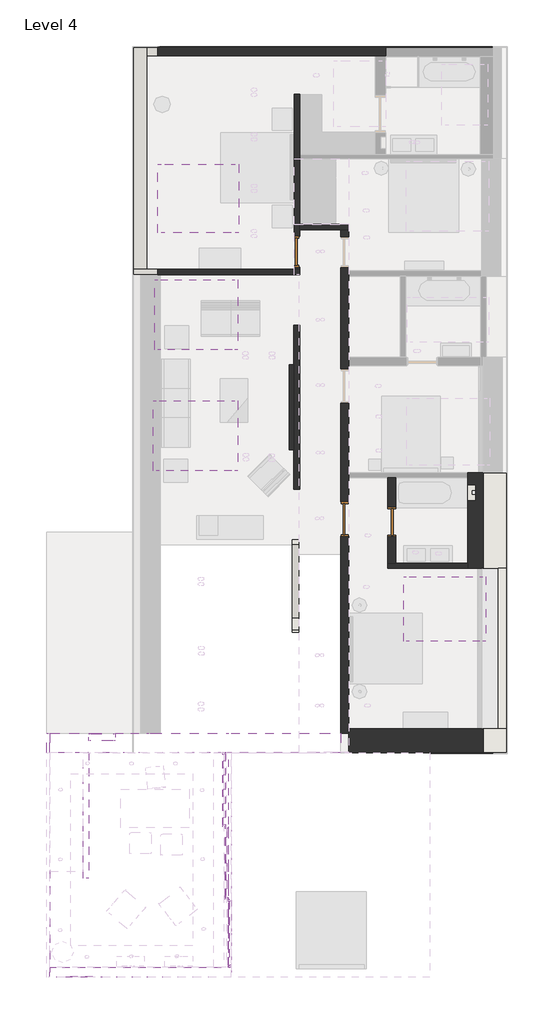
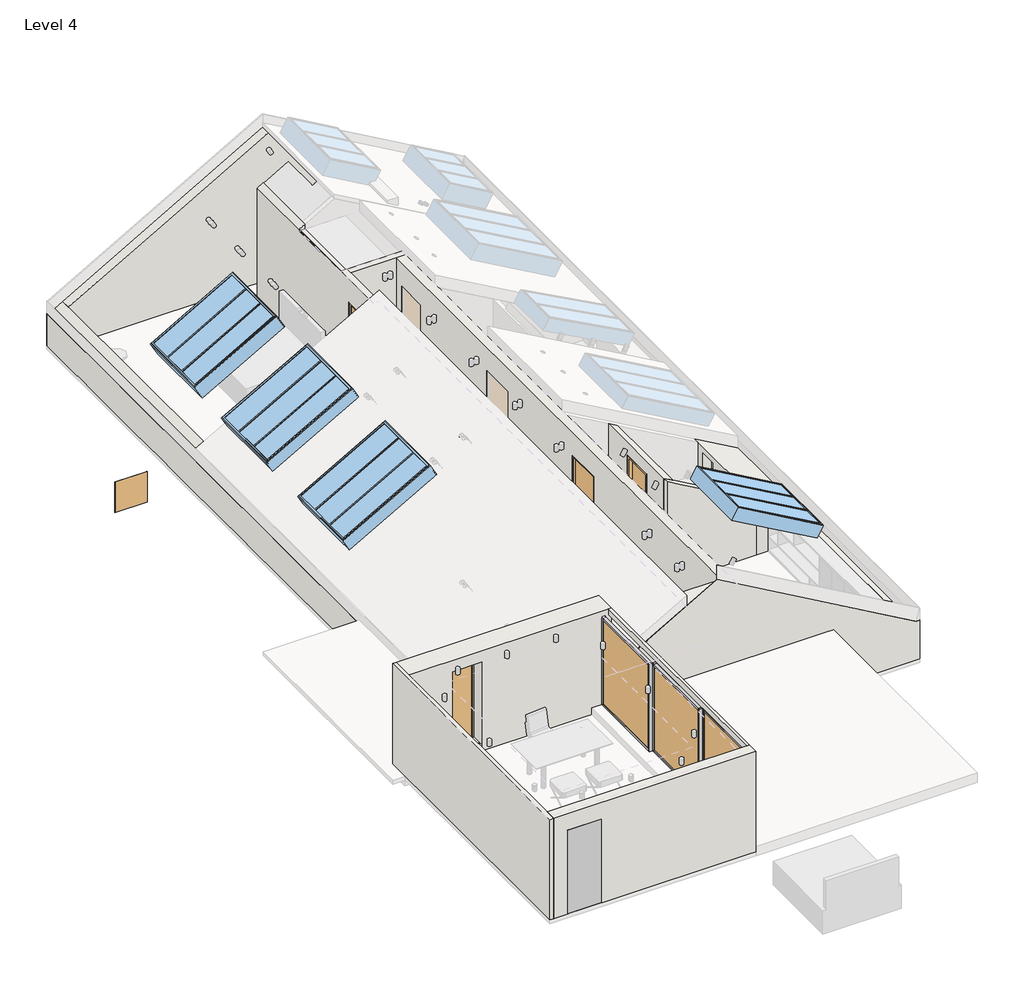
# One storey, part 1 of 5: 23 walls, 16 members, 8 doors, 4 windows, 1 plate.
"""IFC4 building model written with IfcOpenShell, lengths in millimetres."""

from ifc_helpers import new_model, si_unit, frame, origin, place, context, project, spatial, polyline, outline, extrude, faceted_brep, transform, mapped, element, save
from components import door_02_type_2_bd7ec7c0, door_02_type_3_48e4adbd, door_02_type_4_94f705d0, door_04_type_1_ab4ee08b, door_05_type_2_e75293e1, door_curtain_02_door_curtain_02_4380cbc4, door_curtain_02_door_curtain_02_bd843177, door_curtain_02_door_curtain_02_6343a127, rectangular_mullion_5_x_5mm_6312e54a, rectangular_mullion_5_x_5mm_3b9e5684, rectangular_mullion_50_x_80mm_fdfd2208, rectangular_mullion_50_x_80mm_42ab184f, rectangular_mullion_50_x_80mm_cb1dbf9a, rectangular_mullion_50_x_80mm_e7675d2a, system_panel_glazed_2_6d841b2c, window_02_standard_93dd7321, window_02_standard_e155140b, window_02_standard_1b0e09d1, window_02_standard_f3fdb80f

model = new_model("IFC4")

# Units and contexts
model_context = context("Model", 3, world=origin())
ifc_project = project(units=[si_unit("LENGTHUNIT", "METRE", prefix="MILLI")], contexts=[model_context])

# Site, building, storey
site = spatial("IfcSite", under=ifc_project)
building = spatial("IfcBuilding", under=site)
storey = spatial("IfcBuildingStorey", under=building, Name="Level 4", Elevation=8080.0)

# Doors
placement = place(None, origin())
door_02_type_2_shape = door_02_type_2_bd7ec7c0(model_context)
element("IfcDoor", 1, ObjectType="Door_02 : Type 2", at=placement, inside=storey, context=model_context, shape_type="MappedRepresentation", body=[
    mapped(door_02_type_2_shape, transform((-6343.0019919, 5095.5198069, 9630.0), x_axis=(-1.0, 0.0, 0.0), y_axis=(0.0, -1.0, 0.0), z_axis=(0.0, 0.0, 1.0))),
])
door_02_type_3_shape = door_02_type_3_48e4adbd(model_context)
element("IfcDoor", 2, ObjectType="Door_02 : Type 3", at=placement, inside=storey, context=model_context, shape_type="MappedRepresentation", body=[
    mapped(door_02_type_3_shape, transform((-927.6989418, 18730.5978406, 8080.0), x_axis=(0.0, -1.0, 0.0), y_axis=(1.0, 0.0, 0.0), z_axis=(0.0, 0.0, 1.0))),
])
door_02_type_4_shape = door_02_type_4_94f705d0(model_context)
element("IfcDoor", 3, ObjectType="Door_02 : Type 4", at=placement, inside=storey, context=model_context, shape_type="MappedRepresentation", body=[
    mapped(door_02_type_4_shape, transform((396.4168364, 11308.0978406, 8080.0), x_axis=(0.0, 1.0, 0.0), y_axis=(-1.0, 0.0, 0.0), z_axis=(0.0, 0.0, 1.0))),
])
door_04_type_1_shape = door_04_type_1_ab4ee08b(model_context)
element("IfcDoor", 4, ObjectType="Door_04 : Type 1", at=placement, inside=storey, context=model_context, shape_type="MappedRepresentation", body=[
    mapped(door_04_type_1_shape, transform((-3764.2035042, 23773.8264883, 4005.0), x_axis=(1.0, 0.0, 0.0), y_axis=(0.0, 0.0, 1.0), z_axis=(0.0, -1.0, 0.0))),
])
door_05_type_2_shape = door_05_type_2_e75293e1(model_context)
element("IfcDoor", 5, ObjectType="Door_05 : Type 2", at=placement, inside=storey, context=model_context, shape_type="MappedRepresentation", body=[
    mapped(door_05_type_2_shape, transform((1702.3010582, 11230.5978406, 8080.0), x_axis=(0.0, 1.0, 0.0), y_axis=(-1.0, 0.0, 0.0), z_axis=(0.0, 0.0, 1.0))),
])
door_curtain_02_door_curtain_02_shape = door_curtain_02_door_curtain_02_4380cbc4(model_context)
element("IfcDoor", 6, ObjectType="Door_Curtain_02 : Door_Curtain_02", at=placement, inside=storey, context=model_context, shape_type="MappedRepresentation", body=[
    mapped(door_curtain_02_door_curtain_02_shape, transform((-2806.3974698, -194.4112752, 9676.4391419), x_axis=(0.0, 1.0, 0.0), y_axis=(-1.0, 0.0, 0.0), z_axis=(0.0, 0.0, 1.0))),
])
door_curtain_02_door_curtain_02_2_shape = door_curtain_02_door_curtain_02_bd843177(model_context)
element("IfcDoor", 7, ObjectType="Door_Curtain_02 : Door_Curtain_02", at=placement, inside=storey, context=model_context, shape_type="MappedRepresentation", body=[
    mapped(door_curtain_02_door_curtain_02_2_shape, transform((-2886.3974698, 1755.5887248, 9676.4391419), x_axis=(0.0, 1.0, 0.0), y_axis=(-1.0, 0.0, 0.0), z_axis=(0.0, 0.0, 1.0))),
])
door_curtain_02_door_curtain_02_3_shape = door_curtain_02_door_curtain_02_6343a127(model_context)
element("IfcDoor", 8, ObjectType="Door_Curtain_02 : Door_Curtain_02", at=placement, inside=storey, context=model_context, shape_type="MappedRepresentation", body=[
    mapped(door_curtain_02_door_curtain_02_3_shape, transform((-2966.3974698, 3795.5542658, 9676.4391419), x_axis=(0.0, 1.0, 0.0), y_axis=(-1.0, 0.0, 0.0), z_axis=(0.0, 0.0, 1.0))),
])

# Members
rectangular_mullion_5_x_5mm_shape = rectangular_mullion_5_x_5mm_6312e54a(model_context)
element("IfcMember", 9, ObjectType="Rectangular Mullion : 5 x 5mm", at=placement, inside=storey, context=model_context, shape_type="MappedRepresentation", body=[
    mapped(rectangular_mullion_5_x_5mm_shape, transform((-6591.3974698, -1401.4112752, 9450.0), x_axis=(0.0, 0.0, -1.0), y_axis=(0.0, 1.0, 0.0), z_axis=(1.0, 0.0, 0.0))),
])
element("IfcMember", 10, ObjectType="Rectangular Mullion : 5 x 5mm", at=placement, inside=storey, context=model_context, shape_type="MappedRepresentation", body=[
    mapped(rectangular_mullion_5_x_5mm_shape, transform((-7441.3974698, -1401.4112752, 11664.2166549), x_axis=(0.0, 0.0, 1.0), y_axis=(0.0, 1.0, 0.0), z_axis=(-1.0, 0.0, 0.0))),
])
rectangular_mullion_5_x_5mm_2_shape = rectangular_mullion_5_x_5mm_3b9e5684(model_context)
element("IfcMember", 11, ObjectType="Rectangular Mullion : 5 x 5mm", at=placement, inside=storey, context=model_context, shape_type="MappedRepresentation", body=[
    mapped(rectangular_mullion_5_x_5mm_2_shape, transform((-6586.3974698, -1401.4112752, 11664.2166549), x_axis=(1.0, 0.0, 0.0), y_axis=(0.0, 1.0, 0.0), z_axis=(0.0, 0.0, 1.0))),
])
element("IfcMember", 12, ObjectType="Rectangular Mullion : 5 x 5mm", at=placement, inside=storey, context=model_context, shape_type="MappedRepresentation", body=[
    mapped(rectangular_mullion_5_x_5mm_2_shape, transform((-7446.3974698, -1401.4112752, 9450.0), x_axis=(-1.0, 0.0, 0.0), y_axis=(0.0, 1.0, 0.0), z_axis=(0.0, 0.0, -1.0))),
])
rectangular_mullion_50_x_80mm_shape = rectangular_mullion_50_x_80mm_fdfd2208(model_context)
element("IfcMember", 13, ObjectType="Rectangular Mullion : 50 x 80mm", at=placement, inside=storey, context=model_context, shape_type="MappedRepresentation", body=[
    mapped(rectangular_mullion_50_x_80mm_shape, transform((-2966.3974698, 2765.5887248, 11940.0), x_axis=(0.0, -1.0, 0.0), y_axis=(1.0, 0.0, 0.0), z_axis=(0.0, 0.0, 1.0))),
])
element("IfcMember", 14, ObjectType="Rectangular Mullion : 50 x 80mm", at=placement, inside=storey, context=model_context, shape_type="MappedRepresentation", body=[
    mapped(rectangular_mullion_50_x_80mm_shape, transform((-2806.3974698, -1134.4112752, 11940.0), x_axis=(0.0, -1.0, 0.0), y_axis=(1.0, 0.0, 0.0), z_axis=(0.0, 0.0, 1.0))),
])
element("IfcMember", 15, ObjectType="Rectangular Mullion : 50 x 80mm", at=placement, inside=storey, context=model_context, shape_type="MappedRepresentation", body=[
    mapped(rectangular_mullion_50_x_80mm_shape, transform((-2886.3974698, 745.5887248, 11940.0), x_axis=(0.0, -1.0, 0.0), y_axis=(1.0, 0.0, 0.0), z_axis=(0.0, 0.0, 1.0))),
])
element("IfcMember", 16, ObjectType="Rectangular Mullion : 50 x 80mm", at=placement, inside=storey, context=model_context, shape_type="MappedRepresentation", body=[
    mapped(rectangular_mullion_50_x_80mm_shape, transform((-2966.3974698, 4825.5198069, 9626.4391419), x_axis=(0.0, 1.0, 0.0), y_axis=(1.0, 0.0, 0.0), z_axis=(0.0, 0.0, -1.0))),
])
element("IfcMember", 17, ObjectType="Rectangular Mullion : 50 x 80mm", at=placement, inside=storey, context=model_context, shape_type="MappedRepresentation", body=[
    mapped(rectangular_mullion_50_x_80mm_shape, transform((-2886.3974698, 2765.5887248, 9626.4391419), x_axis=(0.0, 1.0, 0.0), y_axis=(1.0, 0.0, 0.0), z_axis=(0.0, 0.0, -1.0))),
])
element("IfcMember", 18, ObjectType="Rectangular Mullion : 50 x 80mm", at=placement, inside=storey, context=model_context, shape_type="MappedRepresentation", body=[
    mapped(rectangular_mullion_50_x_80mm_shape, transform((-2806.3974698, 745.5887248, 9626.4391419), x_axis=(0.0, 1.0, 0.0), y_axis=(1.0, 0.0, 0.0), z_axis=(0.0, 0.0, -1.0))),
])
rectangular_mullion_50_x_80mm_2_shape = rectangular_mullion_50_x_80mm_42ab184f(model_context)
element("IfcMember", 19, ObjectType="Rectangular Mullion : 50 x 80mm", at=placement, inside=storey, context=model_context, shape_type="MappedRepresentation", body=[
    mapped(rectangular_mullion_50_x_80mm_2_shape, transform((-2966.3974698, 2815.5887248, 9626.4391419), x_axis=(0.0, 0.0, -1.0), y_axis=(1.0, 0.0, 0.0), z_axis=(0.0, -1.0, 0.0))),
])
element("IfcMember", 20, ObjectType="Rectangular Mullion : 50 x 80mm", at=placement, inside=storey, context=model_context, shape_type="MappedRepresentation", body=[
    mapped(rectangular_mullion_50_x_80mm_2_shape, transform((-2966.3974698, 4775.5198069, 11940.0), x_axis=(0.0, 0.0, 1.0), y_axis=(1.0, 0.0, 0.0), z_axis=(0.0, 1.0, 0.0))),
])
rectangular_mullion_50_x_80mm_3_shape = rectangular_mullion_50_x_80mm_cb1dbf9a(model_context)
element("IfcMember", 21, ObjectType="Rectangular Mullion : 50 x 80mm", at=placement, inside=storey, context=model_context, shape_type="MappedRepresentation", body=[
    mapped(rectangular_mullion_50_x_80mm_3_shape, transform((-2886.3974698, 2715.5887248, 11940.0), x_axis=(0.0, 0.0, 1.0), y_axis=(1.0, 0.0, 0.0), z_axis=(0.0, 1.0, 0.0))),
])
element("IfcMember", 22, ObjectType="Rectangular Mullion : 50 x 80mm", at=placement, inside=storey, context=model_context, shape_type="MappedRepresentation", body=[
    mapped(rectangular_mullion_50_x_80mm_3_shape, transform((-2886.3974698, 795.5887248, 9626.4391419), x_axis=(0.0, 0.0, -1.0), y_axis=(1.0, 0.0, 0.0), z_axis=(0.0, -1.0, 0.0))),
])
rectangular_mullion_50_x_80mm_4_shape = rectangular_mullion_50_x_80mm_e7675d2a(model_context)
element("IfcMember", 23, ObjectType="Rectangular Mullion : 50 x 80mm", at=placement, inside=storey, context=model_context, shape_type="MappedRepresentation", body=[
    mapped(rectangular_mullion_50_x_80mm_4_shape, transform((-2806.3974698, -1084.4112752, 9626.4391419), x_axis=(0.0, 0.0, -1.0), y_axis=(1.0, 0.0, 0.0), z_axis=(0.0, -1.0, 0.0))),
])
element("IfcMember", 24, ObjectType="Rectangular Mullion : 50 x 80mm", at=placement, inside=storey, context=model_context, shape_type="MappedRepresentation", body=[
    mapped(rectangular_mullion_50_x_80mm_4_shape, transform((-2806.3974698, 695.5887248, 11940.0), x_axis=(0.0, 0.0, 1.0), y_axis=(1.0, 0.0, 0.0), z_axis=(0.0, 1.0, 0.0))),
])

# Plate
system_panel_glazed_2_shape = system_panel_glazed_2_6d841b2c(model_context)
element("IfcPlate", 25, ObjectType="System Panel : Glazed 2", at=placement, inside=storey, context=model_context, shape_type="MappedRepresentation", body=[
    mapped(system_panel_glazed_2_shape, transform((-7016.3974698, -1401.4112752, 9455.0), x_axis=(-1.0, 0.0, 0.0), y_axis=(0.0, -1.0, 0.0), z_axis=(0.0, 0.0, 1.0))),
])

# Walls
element("IfcWall", 26, ObjectType="Generic - Ext 1080mm", at=placement, inside=storey, context=model_context, shape_type="Brep", body=[
    faceted_brep([(3817.3010582, 12600.5978406, 8080.0), (3817.3010582, 12460.5978406, 8080.0), (3817.3010582, 10080.5978406, 8080.0), (3817.3010582, 9940.5978406, 8080.0), (3817.3010582, 9940.5978406, 9522.8348193), (3817.3010582, 10080.5978406, 9522.8348193), (3817.3010582, 12460.5978406, 9522.8348193), (3817.3010582, 12600.5978406, 9522.8348193), (3817.3010582, 11815.5978406, 9364.7194717), (3817.3010582, 11815.5978406, 8790.2264498), (3817.3010582, 12260.5751475, 8790.2264498), (3817.3010582, 12260.5751475, 9364.7194717), (4897.3010582, 9940.5978406, 8080.0), (4897.3010582, 12600.5978406, 8080.0), (4897.3010582, 12600.5978406, 8906.8136953), (4897.3010582, 9940.5978406, 8906.8136953), (4674.3010582, 12600.5978406, 8080.0), (4664.3010582, 9940.5978406, 8080.0), (4664.3010582, 9940.5978406, 9039.7145489), (4004.9526378, 9940.5978406, 9415.800248), (4004.9526378, 12600.5978406, 9415.800248), (4035.1847118, 11815.5978406, 9364.7194717), (4035.1847118, 12260.5751475, 9364.7194717), (4035.1847118, 12260.5751475, 8790.2264498), (4035.1847118, 11815.5978406, 8790.2264498)], [[[0, 1, 2, 3, 4, 5, 6, 7], [8, 9, 10, 11]], [[12, 13, 14, 15]], [[3, 2, 1, 0, 16, 13, 12, 17]], [[4, 3, 17, 12, 15, 18, 19]], [[0, 7, 20, 14, 13, 16]], [[15, 14, 20, 7, 6, 5, 4, 19, 18]], [[21, 22, 23, 24]], [[21, 24, 9, 8]], [[24, 23, 10, 9]], [[23, 22, 11, 10]], [[22, 21, 8, 11]]]),
])
element("IfcWall", 27, ObjectType="Generic - Ext 19mm", at=placement, inside=storey, context=model_context, shape_type="Brep", body=[
    faceted_brep([(2759.4980081, 4798.0467998, 8080.0), (4916.3010582, 4798.0467998, 8080.0), (4916.3010582, 4798.0467998, 9101.8073213), (4821.3895623, 4798.0467998, 9101.8073213), (-122.9466605, 4798.0467998, 11928.014674), (-2926.3974698, 4798.0467998, 10322.4632571), (-2926.3974698, 4798.0467998, 9600.0), (2759.4980081, 4798.0467998, 9600.0), (2759.4980081, 4798.0467998, 9350.0), (4916.3010582, 4817.0467998, 8080.0), (4897.3010582, 4817.0467998, 8080.0), (2759.4980081, 4817.0467998, 8080.0), (2759.4980081, 4817.0467998, 9350.0), (2759.4980081, 4817.0467998, 9600.0), (-2926.3974698, 4817.0467998, 9600.0), (-2926.3974698, 4817.0467998, 10322.4632571), (-122.9466605, 4817.0467998, 11928.014674), (4821.3895623, 4817.0467998, 9101.8073213), (4897.3010582, 4817.0467998, 9101.8073213), (4916.3010582, 4817.0467998, 9101.8073213)], [[[0, 1, 2, 3, 4, 5, 6, 7, 8]], [[9, 10, 11, 12, 13, 14, 15, 16, 17, 18, 19]], [[1, 0, 11, 10, 9]], [[6, 5, 15, 14]], [[7, 6, 14, 13]], [[4, 3, 17, 16]], [[5, 4, 16, 15]], [[7, 13, 12, 11, 0, 8]], [[3, 2, 19, 18, 17]], [[2, 1, 9, 19]]]),
])
element("IfcWall", 28, ObjectType="Generic - Ext 19mm", at=placement, inside=storey, context=model_context, shape_type="Brep", body=[
    faceted_brep([(4897.3010582, 24429.5978406, 8080.0), (-5488.6989418, 24429.5978406, 8080.0), (-5488.6989418, 24429.5978406, 8914.8163953), (-5374.7874458, 24429.5978406, 8914.8163953), (-122.9466605, 24429.5978406, 11928.014674), (4811.8895623, 24429.5978406, 9101.8073213), (4897.3010582, 24429.5978406, 9101.8073213), (4897.3010582, 24410.5978406, 8080.0), (4897.3010582, 24410.5978406, 9101.8073213), (4811.8895623, 24410.5978406, 9101.8073213), (-122.9466605, 24410.5978406, 11928.014674), (-5374.7874458, 24410.5978406, 8914.8163953), (-5469.6989418, 24410.5978406, 8914.8163953), (-5488.6989418, 24410.5978406, 8914.8163953), (-5488.6989418, 24410.5978406, 8080.0), (-5469.6989418, 24410.5978406, 8080.0)], [[[0, 1, 2, 3, 4, 5, 6]], [[7, 8, 9, 10, 11, 12, 13, 14, 15]], [[0, 6, 8, 7]], [[1, 0, 7, 15, 14]], [[3, 2, 13, 12, 11]], [[4, 3, 11, 10]], [[5, 4, 10, 9]], [[6, 5, 9, 8]], [[2, 1, 14, 13]]]),
])
element("IfcWall", 29, ObjectType="Generic - Ext 19mm", at=placement, inside=storey, context=model_context, shape_type="SweptSolid", body=[
    extrude(outline(polyline([(-5488.6989418, 10948.8264883), (-5488.6989418, 24410.5978406), (-5469.6989418, 24410.5978406), (-5469.6989418, 10948.8264883), (-5488.6989418, 10948.8264883)])), frame((0.0, 0.0, 8080.0), z_axis=(0.0, 0.0, 1.0), x_axis=(1.0, 0.0, 0.0)), (0.0, 0.0, 1.0), 834.8163953),
])
element("IfcWall", 30, ObjectType="Generic - Ext 233mm", at=placement, inside=storey, context=model_context, shape_type="SweptSolid", body=[
    extrude(outline(polyline([(9039.7145489, 4664.3010582), (8080.0, 4664.3010582), (8080.0, 4897.3010582), (8906.8136953, 4897.3010582), (9039.7145489, 4664.3010582)])), frame((0.0, 5480.5198069, 0.0), z_axis=(0.0, 1.0, 0.0), x_axis=(0.0, 0.0, 1.0)), (0.0, 0.0, 1.0), 4460.0780337),
])
element("IfcWall", 31, ObjectType="Generic - Ext 240mm", at=placement, inside=storey, context=model_context, shape_type="Brep", body=[
    faceted_brep([(-5102.6989418, 24170.5978406, 8080.0), (1252.3010582, 24170.5978406, 8080.0), (1532.3010582, 24170.5978406, 8080.0), (1532.3010582, 24170.5978406, 11004.2454548), (-122.6989418, 24170.5978406, 11952.0728917), (-122.6989418, 24170.5978406, 11952.3566315), (-2514.4527786, 24170.5978406, 10582.5862938), (-4527.7909951, 24170.5978406, 9429.5366253), (-5102.6989418, 24170.5978406, 9100.2837398), (-5102.6989418, 24410.5978406, 8080.0), (-5102.6989418, 24410.5978406, 9100.2837398), (-122.6989418, 24410.5978406, 11952.3566315), (-122.6989418, 24410.5978406, 11952.0728917), (1532.3010582, 24410.5978406, 11004.2454548), (1532.3010582, 24410.5978406, 8080.0)], [[[0, 1, 2, 3, 4, 5, 6, 7, 8]], [[9, 10, 11, 12, 13, 14]], [[0, 8, 10, 9]], [[3, 2, 14, 13]], [[2, 1, 0, 9, 14]], [[11, 5, 4, 12]], [[4, 3, 13, 12]], [[8, 7, 6, 5, 11, 10]]]),
])
element("IfcWall", 32, ObjectType="Generic - Ext 278mm", at=placement, inside=storey, context=model_context, shape_type="Brep", body=[
    faceted_brep([(-2751.3974698, -1412.4112752, 12090.0), (-7786.3974698, -1412.4112752, 12090.0), (-7786.3974698, -1412.4112752, 9450.0), (-7446.3974698, -1412.4112752, 9450.0), (-7446.3974698, -1412.4112752, 11664.2166549), (-6586.3974698, -1412.4112752, 11664.2166549), (-6586.3974698, -1412.4112752, 9450.0), (-2751.3974698, -1412.4112752, 9450.0), (-7786.3974698, -1134.4112752, 12090.0), (-2821.3974698, -1134.4112752, 12090.0), (-2751.3974698, -1134.4112752, 12090.0), (-2751.3974698, -1134.4112752, 11940.0), (-2751.3974698, -1134.4112752, 9450.0), (-6586.3974698, -1134.4112752, 9450.0), (-6586.3974698, -1134.4112752, 11664.2166549), (-7446.3974698, -1134.4112752, 11664.2166549), (-7446.3974698, -1134.4112752, 9450.0), (-7786.3974698, -1134.4112752, 9450.0)], [[[0, 1, 2, 3, 4, 5, 6, 7]], [[8, 9, 10, 11, 12, 13, 14, 15, 16, 17]], [[2, 17, 16, 3]], [[12, 7, 6, 13]], [[1, 0, 10, 9, 8]], [[2, 1, 8, 17]], [[5, 14, 13, 6]], [[15, 4, 3, 16]], [[4, 15, 14, 5]], [[0, 7, 12, 11, 10]]]),
])
element("IfcWall", 33, ObjectType="Generic - Ext 307mm", at=placement, inside=storey, context=model_context, shape_type="Brep", body=[
    faceted_brep([(-5162.6989418, 10738.8264883, 8080.0), (-5162.6989418, 18090.5978406, 8080.0), (-5162.6989418, 18090.5978406, 9029.4410995), (-5162.6989418, 10738.8264883, 9029.4410995), (-5162.6989418, 10738.8264883, 8915.0), (-5469.6989418, 18090.5978406, 8080.0), (-5469.6989418, 10948.8264883, 8080.0), (-5469.6989418, 10948.8264883, 8856.4554897), (-5469.6989418, 18090.5978406, 8856.4554897), (-5394.2035042, 10738.8264883, 8080.0), (-5394.2035042, 10948.8264883, 8080.0), (-5365.7991741, 10738.8264883, 8915.0), (-5394.2035042, 10738.8264883, 8898.9949825), (-5394.2035042, 10948.8264883, 8898.9949825)], [[[0, 1, 2, 3, 4]], [[5, 6, 7, 8]], [[1, 0, 9, 10, 6, 5]], [[0, 4, 11, 12, 9]], [[4, 3, 11]], [[1, 5, 8, 2]], [[10, 9, 12, 13]], [[6, 10, 13, 7]], [[3, 2, 8, 7, 13, 12, 11]]]),
])
element("IfcWall", 34, ObjectType="Generic - Ext 367mm", at=placement, inside=storey, context=model_context, shape_type="Brep", body=[
    faceted_brep([(-5102.6989418, 18240.5978406, 9100.2837398), (-5102.6989418, 18240.5978406, 8080.0), (-5102.6989418, 24170.5978406, 8080.0), (-5102.6989418, 24410.5978406, 8080.0), (-5102.6989418, 24410.5978406, 9100.2837398), (-5102.6989418, 24170.5978406, 9100.2837398), (-5469.6989418, 18240.5978406, 8080.0), (-5469.6989418, 18240.5978406, 8890.100858), (-5469.6989418, 24410.5978406, 8890.100858), (-5469.6989418, 24410.5978406, 8080.0)], [[[0, 1, 2, 3, 4, 5]], [[6, 7, 8, 9]], [[3, 2, 1, 6, 9]], [[4, 3, 9, 8]], [[0, 5, 4, 8, 7]], [[0, 7, 6, 1]]]),
])
element("IfcWall", 35, ObjectType="Generic - Ext 540mm", at=placement, inside=storey, context=model_context, shape_type="Brep", body=[
    faceted_brep([(-2751.3974698, 4825.5198069, 12090.0), (-2821.3974698, 4825.5198069, 12090.0), (-7786.3974698, 4825.5198069, 12090.0), (-7786.3974698, 4825.5198069, 9450.1288645), (-6858.0019919, 4825.5198069, 9450.1288645), (-6708.0019919, 4825.5198069, 9450.1288645), (-6706.3974698, 4825.5198069, 9450.1288645), (-6706.3974698, 4825.5198069, 9630.0), (-6708.0019919, 4825.5198069, 9630.0), (-6708.0019919, 4825.5198069, 10566.4949349), (-6708.0019919, 4825.5198069, 11790.0), (-5978.0019919, 4825.5198069, 11790.0), (-5978.0019919, 4825.5198069, 9630.0), (-5976.3974698, 4825.5198069, 9630.0), (-5976.3974698, 4825.5198069, 9450.1288645), (286.4168364, 4825.5198069, 9450.1288645), (286.4168364, 4825.5198069, 11450.0), (-866.8989418, 4825.5198069, 11450.0), (-2751.3974698, 4825.5198069, 10330.0539927), (-2751.3974698, 4825.5198069, 10388.1396515), (-2891.3974698, 4825.5198069, 10309.2537057), (-2891.3974698, 4825.5198069, 10615.7226764), (-2751.3974698, 4825.5198069, 10694.6086223), (-2751.3974698, 4825.5198069, 10734.9830708), (-2891.3974698, 4825.5198069, 10654.8043148), (-2891.3974698, 4825.5198069, 10712.423571), (-2751.3974698, 4825.5198069, 10792.602327), (-2751.3974698, 4825.5198069, 11940.0), (-7786.3974698, 5365.5198069, 12090.0), (-2751.3974698, 5365.5198069, 12090.0), (-2751.3974698, 5365.5198069, 10792.602327), (-2891.3974698, 5365.5198069, 10712.423571), (-2891.3974698, 5365.5198069, 10654.8043148), (-2751.3974698, 5365.5198069, 10734.9830708), (-2751.3974698, 5365.5198069, 10694.6086223), (-2891.3974698, 5365.5198069, 10615.7226764), (-2891.3974698, 5365.5198069, 10309.2537057), (-2751.3974698, 5365.5198069, 10388.1396515), (-2751.3974698, 5365.5198069, 10330.0539927), (-866.8989418, 5365.5198069, 11450.0), (286.4168364, 5365.5198069, 11450.0), (286.4168364, 5365.5198069, 9450.1288645), (-4416.0984352, 5365.5198069, 9450.1288645), (-4959.9932375, 5365.5198069, 9450.1288645), (-4994.8793828, 5365.5198069, 9450.1288645), (-5095.4882756, 5365.5198069, 9450.1288645), (-7786.3974698, 5365.5198069, 9450.1288645), (-6708.0019919, 5365.5198069, 11790.0), (-6708.0019919, 5365.5198069, 9630.0), (-5978.0019919, 5365.5198069, 9630.0), (-5978.0019919, 5365.5198069, 11790.0), (-5978.0019919, 4911.6778674, 9630.0), (-6706.3974698, 4911.6778674, 9630.0), (-6706.3974698, 4911.6778674, 9450.1288645), (-5976.3974698, 4911.6778674, 9450.1288645), (-5976.3974698, 4911.6778674, 9630.0)], [[[0, 1, 2, 3, 4, 5, 6, 7, 8, 9, 10, 11, 12, 13, 14, 15, 16, 17, 18, 19, 20, 21, 22, 23, 24, 25, 26, 27]], [[28, 29, 30, 31, 32, 33, 34, 35, 36, 37, 38, 39, 40, 41, 42, 43, 44, 45, 46], [47, 48, 49, 50]], [[3, 2, 28, 46]], [[47, 10, 9, 8, 48]], [[10, 47, 50, 11]], [[11, 50, 49, 51, 12]], [[48, 8, 7, 52, 51, 49]], [[52, 53, 54, 55, 51]], [[55, 13, 12, 51]], [[55, 54, 14, 13]], [[53, 52, 7, 6]], [[15, 14, 54, 53, 6, 5, 4, 3, 46, 45, 44, 43, 42, 41]], [[2, 1, 0, 29, 28]], [[17, 16, 40, 39]], [[18, 17, 39, 38]], [[15, 41, 40, 16]], [[18, 38, 37, 19]], [[29, 0, 27, 26, 30]], [[33, 23, 22, 34]], [[25, 31, 30, 26]], [[32, 24, 23, 33]], [[31, 25, 24, 32]], [[21, 35, 34, 22]], [[36, 20, 19, 37]], [[35, 21, 20, 36]]]),
])
element("IfcWall", 36, ObjectType="Generic - Ext 655mm", at=placement, inside=storey, context=model_context, shape_type="Brep", body=[
    faceted_brep([(4897.3010582, 5480.5198069, 8080.0), (4664.3010582, 5480.5198069, 8080.0), (506.4168364, 5480.5198069, 8080.0), (506.4168364, 5480.5198069, 11411.3298377), (4664.3010582, 5480.5198069, 9039.7145489), (4897.3010582, 5480.5198069, 8906.8136953), (4897.3010582, 4825.5198069, 8906.8136953), (506.4168364, 4825.5198069, 11411.3298377), (506.4168364, 4825.5198069, 9450.0), (506.4168364, 4825.5198069, 8080.0), (586.4168364, 4825.5198069, 8080.0), (2503.0901674, 4825.5198069, 8080.0), (2759.4980081, 4825.5198069, 8080.0), (4897.3010582, 4825.5198069, 8080.0), (506.4168364, 5365.5198069, 8080.0)], [[[0, 1, 2, 3, 4, 5]], [[6, 7, 8, 9, 10, 11, 12, 13]], [[2, 1, 0, 13, 12, 11, 10, 9, 14]], [[5, 4, 3, 7, 6]], [[7, 3, 2, 14, 9, 8]], [[0, 5, 6, 13]]]),
])
element("IfcWall", 37, ObjectType="Generic - Ext 70mm", at=placement, inside=storey, context=model_context, shape_type="SweptSolid", body=[
    extrude(outline(polyline([(-2751.3974698, 4825.5198069), (-2751.3974698, -1134.4112752), (-2821.3974698, -1134.4112752), (-2821.3974698, 4825.5198069), (-2751.3974698, 4825.5198069)])), frame((0.0, 0.0, 11940.0), z_axis=(0.0, 0.0, 1.0), x_axis=(1.0, 0.0, 0.0)), (0.0, 0.0, 1.0), 150.0),
])
element("IfcWall", 38, ObjectType="Generic - Ext 94mm", at=placement, inside=storey, context=model_context, shape_type="Brep", body=[
    faceted_brep([(-7880.3974698, 5365.5198069, 9450.0), (-7880.3974698, 4825.5198069, 9450.0), (-7880.3974698, -1412.4112752, 9450.0), (-7880.3974698, -1412.4112752, 12090.0), (-7880.3974698, 5365.5198069, 12090.0), (-7786.3974698, 5365.5198069, 9450.0), (-7786.3974698, 5365.5198069, 12090.0), (-7786.3974698, 4825.5198069, 12090.0), (-7786.3974698, -1134.4112752, 12090.0), (-7786.3974698, -1412.4112752, 12090.0), (-7786.3974698, -1412.4112752, 9450.0), (-7786.3974698, -1134.4112752, 9450.0), (-7786.3974698, 1565.5887248, 9450.0), (-7786.3974698, 4825.5198069, 9450.0)], [[[0, 1, 2, 3, 4]], [[5, 6, 7, 8, 9, 10, 11, 12, 13]], [[2, 1, 0, 5, 13, 12, 11, 10]], [[4, 3, 9, 8, 7, 6]], [[3, 2, 10, 9]], [[0, 4, 6, 5]]]),
])
element("IfcWall", 39, ObjectType="Generic - Int 130mm", at=placement, inside=storey, context=model_context, shape_type="SweptSolid", body=[
    extrude(outline(polyline([(11293.1287097, -1145.3006318), (8080.0, -1145.3006318), (8080.0, -1015.3006318), (11366.3799451, -1015.3006318), (11293.1287097, -1145.3006318)])), frame((0.0, 13235.5327803, 0.0), z_axis=(0.0, 1.0, 0.0), x_axis=(0.0, 0.0, 1.0)), (0.0, 0.0, 1.0), 2355.0),
])
element("IfcWall", 40, ObjectType="Generic - Int 140mm", at=placement, inside=storey, context=model_context, shape_type="Brep", body=[
    faceted_brep([(3817.3010582, 10080.5978406, 8080.0), (1812.3010582, 10080.5978406, 8080.0), (1592.3010582, 10080.5978406, 8080.0), (1592.3010582, 10080.5978406, 10791.9524128), (1812.3010582, 10080.5978406, 10666.4666283), (3817.3010582, 10080.5978406, 9522.8348193), (3817.3010582, 9940.5978406, 8080.0), (3817.3010582, 9940.5978406, 9522.8348193), (1920.2370032, 9940.5978406, 10604.9010523), (1592.3010582, 9940.5978406, 10791.9524128), (1592.3010582, 9940.5978406, 8080.0)], [[[0, 1, 2, 3, 4, 5]], [[6, 7, 8, 9, 10]], [[2, 1, 0, 6, 10]], [[0, 5, 7, 6]], [[3, 2, 10, 9]], [[5, 4, 3, 9, 8, 7]]]),
])
element("IfcWall", 41, ObjectType="Generic - Int 150mm", at=placement, inside=storey, context=model_context, shape_type="Brep", body=[
    faceted_brep([(-6858.0019919, 4825.5198069, 9450.0), (-6858.0019919, 1335.5887248, 9450.0), (-6858.0019919, 1335.5887248, 10566.4949349), (-6858.0019919, 4825.5198069, 10566.4949349), (-6708.0019919, 4825.5198069, 9450.0), (-6708.0019919, 4825.5198069, 9630.0), (-6708.0019919, 4825.5198069, 10566.4949349), (-6708.0019919, 1335.5887248, 10566.4949349), (-6708.0019919, 1335.5887248, 9450.0)], [[[0, 1, 2, 3]], [[4, 5, 6, 7, 8]], [[1, 0, 4, 8]], [[2, 1, 8, 7]], [[3, 2, 7, 6]], [[0, 3, 6, 5, 4]]]),
])
element("IfcWall", 42, ObjectType="Generic - Int 150mm", at=placement, inside=storey, context=model_context, shape_type="Brep", body=[
    faceted_brep([(-5469.6989418, 18090.5978406, 8890.100858), (-5469.6989418, 18090.5978406, 8856.4554897), (-5469.6989418, 18090.5978406, 8080.0), (-5162.6989418, 18090.5978406, 8080.0), (-852.6989418, 18090.5978406, 8080.0), (-852.6989418, 18090.5978406, 11450.0), (-866.8989418, 18090.5978406, 11450.0), (-999.3989418, 18090.5978406, 11450.0), (-999.3989418, 18090.5978406, 11450.2658074), (-5469.6989418, 18240.5978406, 8080.0), (-5469.6989418, 18240.5978406, 8890.100858), (-5102.6989418, 18240.5978406, 9100.2837398), (-1002.6989418, 18240.5978406, 11448.3758795), (-999.3989418, 18240.5978406, 11450.2658074), (-999.3989418, 18240.5978406, 11450.0), (-852.6989418, 18240.5978406, 11450.0), (-852.6989418, 18240.5978406, 8080.0), (-1002.6989418, 18240.5978406, 8080.0), (-5102.6989418, 18240.5978406, 8080.0)], [[[0, 1, 2, 3, 4, 5, 6, 7, 8]], [[9, 10, 11, 12, 13, 14, 15, 16, 17, 18]], [[5, 4, 16, 15]], [[0, 10, 9, 2, 1]], [[4, 3, 2, 9, 18, 17, 16]], [[0, 8, 13, 12, 11, 10]], [[13, 8, 7, 14]], [[7, 6, 5, 15, 14]]]),
])
element("IfcWall", 43, ObjectType="Generic - Int 150mm", at=placement, inside=storey, context=model_context, shape_type="Brep", body=[
    faceted_brep([(-852.6989418, 23105.5978406, 8080.0), (-852.6989418, 23105.5978406, 11534.2816895), (-852.6989418, 21420.5978406, 11534.2816895), (-852.6989418, 21310.5978406, 11534.2816895), (-852.6989418, 21310.5978406, 11405.0), (-852.6989418, 19495.5978406, 11405.0), (-852.6989418, 19495.5978406, 11450.0), (-852.6989418, 19345.5978406, 11450.0), (-852.6989418, 18240.5978406, 11450.0), (-852.6989418, 18240.5978406, 8080.0), (-852.6989418, 18300.5978406, 8080.0), (-852.6989418, 18300.5978406, 10840.0), (-852.6989418, 19160.5978406, 10840.0), (-852.6989418, 19160.5978406, 8080.0), (-852.6989418, 19345.5978406, 8080.0), (-852.6989418, 19495.5978406, 8080.0), (-852.6989418, 21310.5978406, 8080.0), (-852.6989418, 21420.5978406, 8080.0), (-1002.6989418, 23105.5978406, 11448.3758795), (-1002.6989418, 23105.5978406, 8080.0), (-1002.6989418, 19160.5978406, 8080.0), (-1002.6989418, 19160.5978406, 10840.0), (-1002.6989418, 18300.5978406, 10840.0), (-1002.6989418, 18300.5978406, 8080.0), (-1002.6989418, 18240.5978406, 8080.0), (-1002.6989418, 18240.5978406, 11448.3758795), (-999.3989418, 23105.5978406, 11450.2658074), (-999.3989418, 18240.5978406, 11450.0), (-999.3989418, 18240.5978406, 11450.2658074), (-999.3989418, 19495.5978406, 11450.0), (-999.3989418, 19495.5978406, 11405.0), (-999.3989418, 21310.5978406, 11405.0), (-999.3989418, 21310.5978406, 11450.2658074)], [[[0, 1, 2, 3, 4, 5, 6, 7, 8, 9, 10, 11, 12, 13, 14, 15, 16, 17]], [[18, 19, 20, 21, 22, 23, 24, 25]], [[19, 0, 17, 16, 15, 14, 13, 20]], [[9, 24, 23, 10]], [[1, 0, 19, 18, 26]], [[9, 8, 27, 28, 25, 24]], [[28, 27, 29, 30, 31, 32]], [[32, 31, 4, 3]], [[6, 5, 30, 29]], [[27, 8, 7, 6, 29]], [[26, 18, 25, 28, 32, 3, 2, 1]], [[5, 4, 31, 30]], [[22, 11, 10, 23]], [[11, 22, 21, 12]], [[12, 21, 20, 13]]]),
])
element("IfcWall", 44, ObjectType="Generic - Int 150mm", at=placement, inside=storey, context=model_context, shape_type="Brep", body=[
    faceted_brep([(-852.6989418, 19345.5978406, 8080.0), (286.4168364, 19345.5978406, 8080.0), (506.4168364, 19345.5978406, 8080.0), (506.4168364, 19345.5978406, 11450.0), (286.4168364, 19345.5978406, 11450.0), (-852.6989418, 19345.5978406, 11450.0), (-852.6989418, 19495.5978406, 8080.0), (-852.6989418, 19495.5978406, 11405.0), (-852.6989418, 19495.5978406, 11450.0), (506.4168364, 19495.5978406, 11450.0), (506.4168364, 19495.5978406, 8080.0)], [[[0, 1, 2, 3, 4, 5]], [[6, 7, 8, 9, 10]], [[2, 1, 0, 6, 10]], [[5, 4, 3, 9, 8]], [[0, 5, 8, 7, 6]], [[3, 2, 10, 9]]]),
])
element("IfcWall", 45, ObjectType="Generic - Int 170mm", at=placement, inside=storey, context=model_context, shape_type="SweptSolid", body=[
    extrude(outline(polyline([(11366.3799451, -1015.3006318), (8080.0, -1015.3006318), (8080.0, -845.3006318), (11450.0, -845.3006318), (11450.0, -866.8989418), (11366.3799451, -1015.3006318)])), frame((0.0, 12135.5327803, 0.0), z_axis=(0.0, 1.0, 0.0), x_axis=(0.0, 0.0, 1.0)), (0.0, 0.0, 1.0), 4560.0),
])
element("IfcWall", 46, ObjectType="Generic - Int 180mm", at=placement, inside=storey, context=model_context, shape_type="Brep", body=[
    faceted_brep([(-1057.6989418, 8499.2292585, 5953.7634965), (-1057.6989418, 8168.2374199, 5953.7634965), (-1057.6989418, 8168.2374199, 6410.0), (-1057.6989418, 8228.2374199, 6410.0), (-1057.6989418, 8228.2374199, 6510.0), (-1057.6989418, 8228.2374199, 7620.3143871), (-1057.6989418, 8558.2374199, 7620.3143871), (-1057.6989418, 10588.8264883, 9196.0483), (-1057.6989418, 10738.8264883, 9196.0483), (-1057.6989418, 10738.8264883, 7375.0), (-1057.6989418, 10588.8264883, 7375.0), (-1057.6989418, 10573.3393395, 7375.0), (-1057.6989418, 8588.2374199, 6014.7543037), (-877.6989418, 8168.2374199, 5953.7634965), (-877.6989418, 8499.2292585, 5953.7634965), (-877.6989418, 10573.3393395, 7375.0), (-877.6989418, 10588.8264883, 7375.0), (-877.6989418, 10738.8264883, 7375.0), (-877.6989418, 10738.8264883, 9196.0483), (-877.6989418, 10588.8264883, 9196.0483), (-877.6989418, 8558.2374199, 7620.3143871), (-877.6989418, 8228.2374199, 7620.3143871), (-877.6989418, 8228.2374199, 6510.0), (-877.6989418, 8228.2374199, 6410.0), (-877.6989418, 8168.2374199, 6410.0)], [[[0, 1, 2, 3, 4, 5, 6, 7, 8, 9, 10, 11, 12]], [[13, 14, 15, 16, 17, 18, 19, 20, 21, 22, 23, 24]], [[9, 8, 18, 17]], [[1, 0, 14, 13]], [[8, 7, 19, 18]], [[6, 5, 21, 20]], [[7, 6, 20, 19]], [[11, 10, 9, 17, 16, 15]], [[1, 13, 24, 2]], [[21, 5, 4, 3, 23, 22]], [[0, 12, 11, 15, 14]], [[23, 3, 2, 24]]]),
])
element("IfcWall", 47, ObjectType="Generic - Int 220mm", at=placement, inside=storey, context=model_context, shape_type="Brep", body=[
    faceted_brep([(286.4168364, 4825.5198069, 11450.0), (286.4168364, 5365.5198069, 11450.0), (286.4168364, 19345.5978406, 11450.0), (286.4168364, 19345.5978406, 8080.0), (286.4168364, 19148.0978406, 8080.0), (286.4168364, 19148.0978406, 10840.0), (286.4168364, 18288.0978406, 10840.0), (286.4168364, 18288.0978406, 8080.0), (286.4168364, 15478.0978406, 8080.0), (286.4168364, 15478.0978406, 10840.0), (286.4168364, 14518.0978406, 10840.0), (286.4168364, 14518.0978406, 8080.0), (286.4168364, 11788.0978406, 8080.0), (286.4168364, 11788.0978406, 10840.0), (286.4168364, 10828.0978406, 10840.0), (286.4168364, 10828.0978406, 8080.0), (286.4168364, 5365.5198069, 8080.0), (286.4168364, 5365.5198069, 9450.1288645), (286.4168364, 4825.5198069, 9450.1288645), (506.4168364, 19345.5978406, 11450.0), (506.4168364, 4825.5198069, 11450.0), (506.4168364, 4825.5198069, 11411.3298377), (506.4168364, 4825.5198069, 9450.1288645), (506.4168364, 5365.5198069, 9450.1288645), (506.4168364, 5365.5198069, 8080.0), (506.4168364, 5480.5198069, 8080.0), (506.4168364, 10828.0978406, 8080.0), (506.4168364, 10828.0978406, 10840.0), (506.4168364, 11788.0978406, 10840.0), (506.4168364, 11788.0978406, 8080.0), (506.4168364, 12460.5978406, 8080.0), (506.4168364, 12600.5978406, 8080.0), (506.4168364, 14518.0978406, 8080.0), (506.4168364, 14518.0978406, 10840.0), (506.4168364, 15478.0978406, 10840.0), (506.4168364, 15478.0978406, 8080.0), (506.4168364, 15570.5978406, 8080.0), (506.4168364, 15795.5978406, 8080.0), (506.4168364, 18050.5978406, 8080.0), (506.4168364, 18200.5978406, 8080.0), (506.4168364, 18288.0978406, 8080.0), (506.4168364, 18288.0978406, 10840.0), (506.4168364, 19148.0978406, 10840.0), (506.4168364, 19148.0978406, 8080.0), (506.4168364, 19345.5978406, 8080.0)], [[[0, 1, 2, 3, 4, 5, 6, 7, 8, 9, 10, 11, 12, 13, 14, 15, 16, 17, 18]], [[19, 20, 21, 22, 23, 24, 25, 26, 27, 28, 29, 30, 31, 32, 33, 34, 35, 36, 37, 38, 39, 40, 41, 42, 43, 44]], [[3, 44, 43, 4]], [[24, 16, 15, 26, 25]], [[7, 40, 39, 38, 37, 36, 35, 8]], [[11, 32, 31, 30, 29, 12]], [[2, 1, 0, 20, 19]], [[3, 2, 19, 44]], [[16, 24, 23, 17]], [[20, 0, 18, 22, 21]], [[18, 17, 23, 22]], [[6, 41, 40, 7]], [[41, 6, 5, 42]], [[42, 5, 4, 43]], [[9, 8, 35, 34]], [[10, 9, 34, 33]], [[11, 10, 33, 32]], [[28, 13, 12, 29]], [[13, 28, 27, 14]], [[14, 27, 26, 15]]]),
])
element("IfcWall", 48, ObjectType="Generic - Int 220mm", at=placement, inside=storey, context=model_context, shape_type="Brep", body=[
    faceted_brep([(1812.3010582, 10080.5978406, 10666.4666283), (1812.3010582, 10080.5978406, 8080.0), (1812.3010582, 10810.5978406, 8080.0), (1812.3010582, 10810.5978406, 10460.0), (1812.3010582, 11650.5978406, 10460.0), (1812.3010582, 11650.5978406, 8080.0), (1812.3010582, 12460.5978406, 8080.0), (1812.3010582, 12460.5978406, 10666.4666283), (1592.3010582, 10080.5978406, 8080.0), (1592.3010582, 10080.5978406, 10791.9524128), (1592.3010582, 12460.5978406, 10791.9524128), (1592.3010582, 12460.5978406, 8080.0), (1592.3010582, 11650.5978406, 8080.0), (1592.3010582, 11650.5978406, 10460.0), (1592.3010582, 10810.5978406, 10460.0), (1592.3010582, 10810.5978406, 8080.0)], [[[0, 1, 2, 3, 4, 5, 6, 7]], [[8, 9, 10, 11, 12, 13, 14, 15]], [[1, 8, 15, 2]], [[11, 6, 5, 12]], [[1, 0, 9, 8]], [[7, 6, 11, 10]], [[0, 7, 10, 9]], [[4, 13, 12, 5]], [[13, 4, 3, 14]], [[14, 3, 2, 15]]]),
])

# Windows
window_02_standard_shape = window_02_standard_93dd7321(model_context)
element("IfcWindow", 49, ObjectType="Window_02 : Standard", at=placement, inside=storey, context=model_context, shape_type="MappedRepresentation", body=[
    mapped(window_02_standard_shape, transform((-3570.7581006, 20205.5746587, 10092.8730443), x_axis=(0.0, 1.0, 0.0), y_axis=(-0.8677654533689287, 0.0, -0.49697396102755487), z_axis=(-0.49697396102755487, 0.0, 0.8677654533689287))),
])
window_02_standard_2_shape = window_02_standard_e155140b(model_context)
element("IfcWindow", 50, ObjectType="Window_02 : Standard", at=placement, inside=storey, context=model_context, shape_type="MappedRepresentation", body=[
    mapped(window_02_standard_2_shape, transform((-3644.2935704, 16985.3976539, 10191.4875264), x_axis=(0.0, 1.0, 0.0), y_axis=(-0.8712138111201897, 0.0, -0.4909037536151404), z_axis=(-0.4909037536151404, 0.0, 0.8712138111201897))),
])
window_02_standard_3_shape = window_02_standard_1b0e09d1(model_context)
element("IfcWindow", 51, ObjectType="Window_02 : Standard", at=placement, inside=storey, context=model_context, shape_type="MappedRepresentation", body=[
    mapped(window_02_standard_3_shape, transform((-3662.5603487, 13620.4750609, 10181.1947258), x_axis=(0.0, 1.0, 0.0), y_axis=(-0.8712138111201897, 0.0, -0.4909037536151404), z_axis=(-0.4909037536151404, 0.0, 0.8712138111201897))),
])
window_02_standard_4_shape = window_02_standard_f3fdb80f(model_context)
element("IfcWindow", 52, ObjectType="Window_02 : Standard", at=placement, inside=storey, context=model_context, shape_type="MappedRepresentation", body=[
    mapped(window_02_standard_4_shape, transform((3094.882285, 8810.4066403, 10242.2752645), x_axis=(0.0, -1.0, 0.0), y_axis=(0.8686315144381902, 0.0, -0.4954586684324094), z_axis=(0.4954586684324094, 0.0, 0.8686315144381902))),
])

save(model, "model.ifc")
